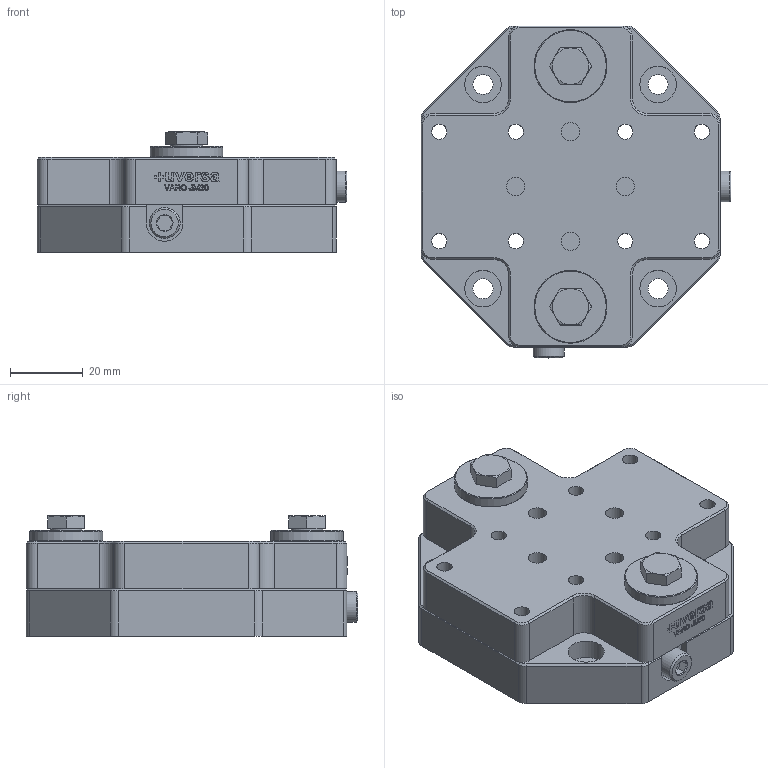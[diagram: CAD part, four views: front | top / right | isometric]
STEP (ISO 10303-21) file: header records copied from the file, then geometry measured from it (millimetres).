
FILE_DESCRIPTION(/* description */ ('Unknown'),/* implementation_level */ '2;1');
FILE_NAME(/* name */ 'VARO-JM20',/* time_stamp */ '2023-03-27T10:57:33+02:00',/* author */ ('Unknown'),/* organization */ ('Unknown'),/* preprocessor_version */ 'ST-DEVELOPER v18.102',/* originating_system */ 'Solid Edge',/* authorisation */ 'Unknown');
FILE_SCHEMA (('AUTOMOTIVE_DESIGN {1 0 10303 214 3 1 1}'));
Length unit declared in the file: millimetre
Products named in the file (4): VARO-JM20; VARO-JM20-Oberteil; VARO-JM20-Unterteil; VARO-JM20-Fuehrungskreuz
Assembly tree (3 placements, depth 2):
  VARO-JM20
    VARO-JM20-Oberteil
    VARO-JM20-Unterteil
    VARO-JM20-Fuehrungskreuz
Bounding box: 85 x 91 x 33 mm (x, y, z)
Volume: 126034 mm3; surface area: 47643.7 mm2
Topology: 3 solids, 5 shells, 579 faces, 1390 edges, 873 vertices
Faces by surface type: plane 321, cylinder 111, cone 105, bspline 35, torus 7
Full cylindrical faces by diameter (mm): 4.2 x20, 5 x19, 5.3 x2, 5.5 x4, 5.75 x4, 6 x2, 6.1 x2, 7.8 x2, 8.5 x2, 8.88 x2, 10 x4, 20 x2
Entity records: 21696 total; most frequent: CARTESIAN_POINT 4975, ORIENTED_EDGE 2484, DIRECTION 2452, EDGE_CURVE 1242, AXIS2_PLACEMENT_3D 878, VERTEX_POINT 825, FACE_BOUND 799, EDGE_LOOP 796
